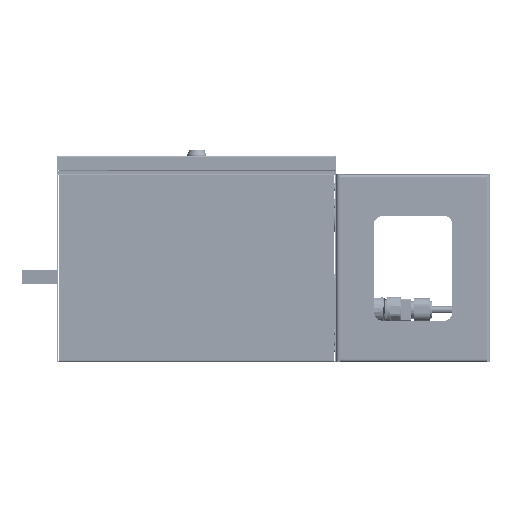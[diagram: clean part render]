
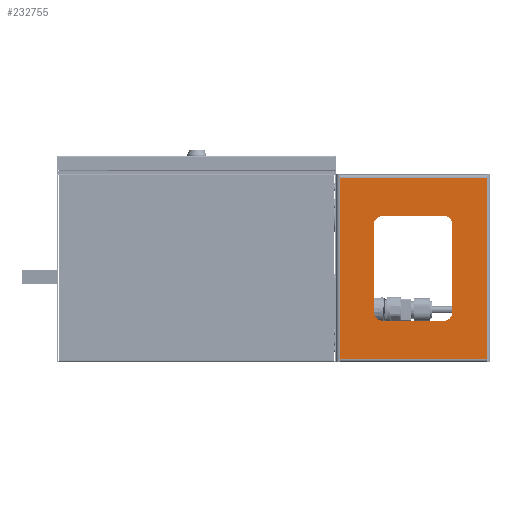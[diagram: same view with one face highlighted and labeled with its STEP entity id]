
A CAD part, left-side view. The second image highlights one B-rep face of the part: STEP entity #232755.
In plain terms, the highlighted planar face has unit normal (-1, 0, 0).
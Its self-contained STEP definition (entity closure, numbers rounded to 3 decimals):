
#10273 = LINE ( 'NONE', #111855, #219008 ) ;
#13386 = VECTOR ( 'NONE', #414132, 1000. ) ;
#14247 = VERTEX_POINT ( 'NONE', #354866 ) ;
#15864 = DIRECTION ( 'NONE',  ( 0., 0., -1. ) ) ;
#18839 = CARTESIAN_POINT ( 'NONE',  ( -212.5, -163., 213.5 ) ) ;
#35947 = ORIENTED_EDGE ( 'NONE', *, *, #353533, .T. ) ;
#45465 = AXIS2_PLACEMENT_3D ( 'NONE', #18839, #297916, #305020 ) ;
#53137 = CARTESIAN_POINT ( 'NONE',  ( -212.5, -213., 56. ) ) ;
#54517 = CARTESIAN_POINT ( 'NONE',  ( -212.5, -163.737, 2.237 ) ) ;
#56722 = CARTESIAN_POINT ( 'NONE',  ( -212.5, -283., 166. ) ) ;
#60254 = DIRECTION ( 'NONE',  ( 1., 0., 0. ) ) ;
#61329 = ORIENTED_EDGE ( 'NONE', *, *, #709370, .F. ) ;
#62785 = VERTEX_POINT ( 'NONE', #54517 ) ;
#64054 = VERTEX_POINT ( 'NONE', #250908 ) ;
#70322 = VERTEX_POINT ( 'NONE', #406666 ) ;
#71748 = CIRCLE ( 'NONE', #268449, 10. ) ;
#84372 = DIRECTION ( 'NONE',  ( 0., -1., 0. ) ) ;
#84406 = VERTEX_POINT ( 'NONE', #264852 ) ;
#90186 = CARTESIAN_POINT ( 'NONE',  ( -212.5, -293., 46. ) ) ;
#104709 = DIRECTION ( 'NONE',  ( 0., 1., 0. ) ) ;
#111855 = CARTESIAN_POINT ( 'NONE',  ( -212.5, -163., 2.237 ) ) ;
#118013 = EDGE_CURVE ( 'NONE', #669477, #70322, #71748, .T. ) ;
#133887 = LINE ( 'NONE', #90186, #650953 ) ;
#134910 = DIRECTION ( 'NONE',  ( 0., 1., 0. ) ) ;
#144161 = DIRECTION ( 'NONE',  ( 0., 1., 0. ) ) ;
#169541 = AXIS2_PLACEMENT_3D ( 'NONE', #232494, #341259, #144161 ) ;
#170184 = ORIENTED_EDGE ( 'NONE', *, *, #389433, .T. ) ;
#171914 = LINE ( 'NONE', #512529, #663663 ) ;
#184394 = ORIENTED_EDGE ( 'NONE', *, *, #286851, .T. ) ;
#186918 = DIRECTION ( 'NONE',  ( 0., 0., 1. ) ) ;
#194212 = EDGE_LOOP ( 'NONE', ( #61329, #542582, #247750, #592973 ) ) ;
#210509 = CARTESIAN_POINT ( 'NONE',  ( -212.5, -332.263, 2.237 ) ) ;
#212761 = EDGE_CURVE ( 'NONE', #70322, #291199, #649925, .T. ) ;
#219008 = VECTOR ( 'NONE', #104709, 1000. ) ;
#220584 = LINE ( 'NONE', #434397, #671362 ) ;
#221426 = VERTEX_POINT ( 'NONE', #696393 ) ;
#226621 = VERTEX_POINT ( 'NONE', #210509 ) ;
#227054 = CARTESIAN_POINT ( 'NONE',  ( -212.5, -203., 46. ) ) ;
#230613 = LINE ( 'NONE', #227054, #432681 ) ;
#232494 = CARTESIAN_POINT ( 'NONE',  ( -212.5, -283., 56. ) ) ;
#232755 = ADVANCED_FACE ( 'NONE', ( #497600, #675346 ), #501184, .F. ) ;
#233641 = ORIENTED_EDGE ( 'NONE', *, *, #716273, .T. ) ;
#247435 = CARTESIAN_POINT ( 'NONE',  ( -212.5, -163., 209.763 ) ) ;
#247750 = ORIENTED_EDGE ( 'NONE', *, *, #271132, .F. ) ;
#250908 = CARTESIAN_POINT ( 'NONE',  ( -212.5, -293., 56. ) ) ;
#251192 = VERTEX_POINT ( 'NONE', #318599 ) ;
#264852 = CARTESIAN_POINT ( 'NONE',  ( -212.5, -163.737, 209.763 ) ) ;
#268449 = AXIS2_PLACEMENT_3D ( 'NONE', #540369, #707367, #696633 ) ;
#271132 = EDGE_CURVE ( 'NONE', #62785, #84406, #404361, .T. ) ;
#272256 = ORIENTED_EDGE ( 'NONE', *, *, #567861, .T. ) ;
#282247 = EDGE_LOOP ( 'NONE', ( #272256, #347048, #314331, #286562, #233641, #170184, #184394, #35947 ) ) ;
#286562 = ORIENTED_EDGE ( 'NONE', *, *, #212761, .T. ) ;
#286851 = EDGE_CURVE ( 'NONE', #64054, #647858, #470694, .T. ) ;
#291199 = VERTEX_POINT ( 'NONE', #56722 ) ;
#297916 = DIRECTION ( 'NONE',  ( 1., 0., 0. ) ) ;
#305020 = DIRECTION ( 'NONE',  ( 0., 1., 0. ) ) ;
#312342 = EDGE_CURVE ( 'NONE', #84406, #407228, #424800, .T. ) ;
#314331 = ORIENTED_EDGE ( 'NONE', *, *, #118013, .T. ) ;
#318599 = CARTESIAN_POINT ( 'NONE',  ( -212.5, -293., 156. ) ) ;
#341186 = AXIS2_PLACEMENT_3D ( 'NONE', #522855, #631687, #134910 ) ;
#341259 = DIRECTION ( 'NONE',  ( 1., 0., 0. ) ) ;
#347048 = ORIENTED_EDGE ( 'NONE', *, *, #378578, .T. ) ;
#353533 = EDGE_CURVE ( 'NONE', #647858, #14247, #133887, .T. ) ;
#354866 = CARTESIAN_POINT ( 'NONE',  ( -212.5, -213., 46. ) ) ;
#363170 = CARTESIAN_POINT ( 'NONE',  ( -212.5, -203., 156. ) ) ;
#368773 = VECTOR ( 'NONE', #458827, 1000. ) ;
#378578 = EDGE_CURVE ( 'NONE', #221426, #669477, #230613, .T. ) ;
#380119 = DIRECTION ( 'NONE',  ( 0., 0., -1. ) ) ;
#387600 = EDGE_CURVE ( 'NONE', #226621, #62785, #10273, .T. ) ;
#389433 = EDGE_CURVE ( 'NONE', #251192, #64054, #220584, .T. ) ;
#404361 = LINE ( 'NONE', #612385, #368773 ) ;
#406666 = CARTESIAN_POINT ( 'NONE',  ( -212.5, -213., 166. ) ) ;
#407228 = VERTEX_POINT ( 'NONE', #534939 ) ;
#414132 = DIRECTION ( 'NONE',  ( 0., -1., 0. ) ) ;
#424800 = LINE ( 'NONE', #247435, #13386 ) ;
#428563 = CARTESIAN_POINT ( 'NONE',  ( -212.5, -293., 166. ) ) ;
#432681 = VECTOR ( 'NONE', #186918, 1000. ) ;
#434397 = CARTESIAN_POINT ( 'NONE',  ( -212.5, -293., 46. ) ) ;
#458827 = DIRECTION ( 'NONE',  ( 0., 0., 1. ) ) ;
#470694 = CIRCLE ( 'NONE', #169541, 10. ) ;
#497600 = FACE_OUTER_BOUND ( 'NONE', #194212, .T. ) ;
#497613 = CIRCLE ( 'NONE', #648360, 10. ) ;
#501184 = PLANE ( 'NONE',  #45465 ) ;
#512529 = CARTESIAN_POINT ( 'NONE',  ( -212.5, -332.263, 213.5 ) ) ;
#522855 = CARTESIAN_POINT ( 'NONE',  ( -212.5, -283., 156. ) ) ;
#534939 = CARTESIAN_POINT ( 'NONE',  ( -212.5, -332.263, 209.763 ) ) ;
#537119 = VECTOR ( 'NONE', #84372, 1000. ) ;
#540369 = CARTESIAN_POINT ( 'NONE',  ( -212.5, -213., 156. ) ) ;
#542582 = ORIENTED_EDGE ( 'NONE', *, *, #312342, .F. ) ;
#549908 = DIRECTION ( 'NONE',  ( 0., 1., 0. ) ) ;
#567861 = EDGE_CURVE ( 'NONE', #14247, #221426, #497613, .T. ) ;
#592973 = ORIENTED_EDGE ( 'NONE', *, *, #387600, .F. ) ;
#612385 = CARTESIAN_POINT ( 'NONE',  ( -212.5, -163.737, 213.5 ) ) ;
#631687 = DIRECTION ( 'NONE',  ( 1., 0., 0. ) ) ;
#637779 = DIRECTION ( 'NONE',  ( 0., 1., 0. ) ) ;
#647858 = VERTEX_POINT ( 'NONE', #658328 ) ;
#648360 = AXIS2_PLACEMENT_3D ( 'NONE', #53137, #60254, #549908 ) ;
#649925 = LINE ( 'NONE', #428563, #537119 ) ;
#650953 = VECTOR ( 'NONE', #637779, 1000. ) ;
#653903 = CIRCLE ( 'NONE', #341186, 10. ) ;
#658328 = CARTESIAN_POINT ( 'NONE',  ( -212.5, -283., 46. ) ) ;
#663663 = VECTOR ( 'NONE', #15864, 1000. ) ;
#669477 = VERTEX_POINT ( 'NONE', #363170 ) ;
#671362 = VECTOR ( 'NONE', #380119, 1000. ) ;
#675346 = FACE_BOUND ( 'NONE', #282247, .T. ) ;
#696393 = CARTESIAN_POINT ( 'NONE',  ( -212.5, -203., 56. ) ) ;
#696633 = DIRECTION ( 'NONE',  ( 0., 1., 0. ) ) ;
#707367 = DIRECTION ( 'NONE',  ( 1., 0., 0. ) ) ;
#709370 = EDGE_CURVE ( 'NONE', #407228, #226621, #171914, .T. ) ;
#716273 = EDGE_CURVE ( 'NONE', #291199, #251192, #653903, .T. ) ;
